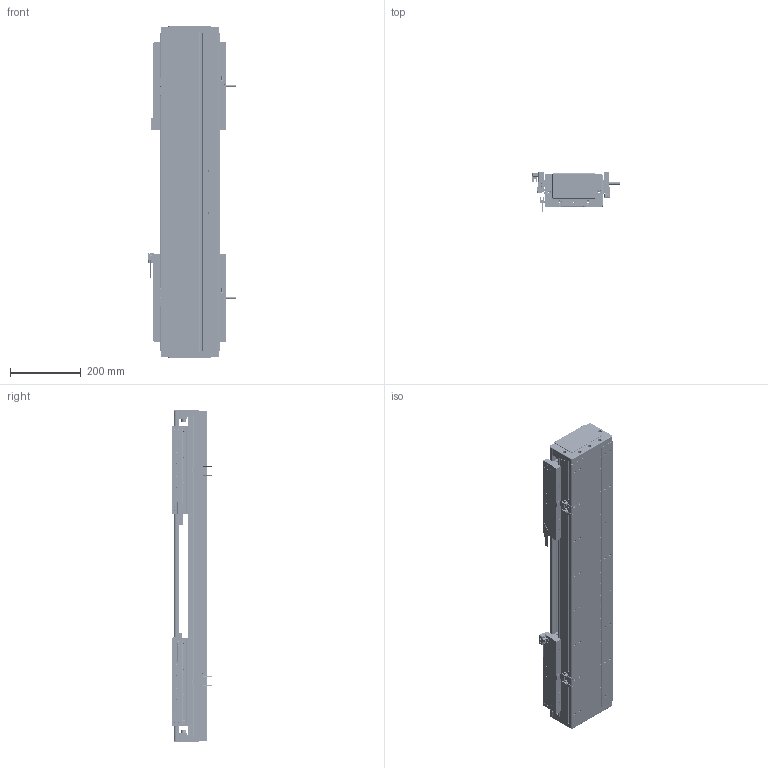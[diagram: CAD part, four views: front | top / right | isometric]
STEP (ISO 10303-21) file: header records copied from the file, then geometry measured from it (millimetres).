
FILE_DESCRIPTION (( 'STEP AP203' ), '1' );
FILE_NAME ('DA-C165-2-C3-T320-C010-0.2 直线电机.STEP', '2023-06-13T09:34:42', ( '微软用户' ), ( '微软中国' ), 'SwSTEP 2.0', 'SolidWorks 2019', '' );
FILE_SCHEMA (( 'CONFIG_CONTROL_DESIGN' ));
Length unit declared in the file: millimetre
Products named in the file (19): 复件 66338-1000-006-00 光电感应块^DA-C165-C3-T-C010-0.2-N 直线电机; IU-CU165-L 菁釱絳寢; 复件 DA165-T-002-00 盖板^DA-C165-C3-T-C010-0.2-N 直线电机_0840-002-00; DA-C165-2-C3-T320-C010-0.2 眻盄萇儂; 复件 DA165-GYP-00 光电感应片^DA-C165-C3-T-C010-0.2-N 直线电机; 复件 DMA-010-0.2 读数头^DA-C165-C3-T-C010-0.2-N 直线电机; 葩璃 CKM03-W075-C1C2-TP-3.0^DA-C165-C3-T-C010-0.2-N 眻盄萇儂; 葩璃 CKM01-W075-TRL^DA-C165-C3-T-C010-0.2-N 眻盄萇儂; 复件 CU165 底座^IU-CU165-L 底座导轨_L900; 复件 DA165-DG-H-N-00 端盖^DA-C165-C3-T-C010-0.2-N 直线电机; 复件 DA95-HXJ-00 缓冲橡胶^DA-C165-C3-T-C010-0.2-N 直线电机; 复件 六角薄螺母 M3^DA-C165-C3-T-C010-0.2-N 直线电机_GB_FASTENER_NUT_STNAB M3-C; 葩璃 DA95-GT-T-00^IU-CU165-L 菁釱絳寢_T; 复件 DKW-HXJ-JY-00 缓冲橡胶^DA-C165-C3-T-C010-0.2-N 直线电机; 复件 XD-U-02L 磁栅尺^DA-C165-C3-T-C010-0.2-N 直线电机_T; 葩璃 PM-T45^DA-C165-C3-T-C010-0.2-N 眻盄萇儂; 葩璃 PM-Y45^DA-C165-C3-T-C010-0.2-N 眻盄萇儂; 复件 DA126-GYP-ZJ-00 中间光电感应片^DA-C165-C3-T-C010-0.2-N 直线电机; 珨极趙賑雄怢啣C3-wf
Assembly tree (40 placements, depth 3):
  DA-C165-2-C3-T320-C010-0.2 眻盄萇儂
    IU-CU165-L 菁釱絳寢
      复件 CU165 底座^IU-CU165-L 底座导轨_L900
      葩璃 DA95-GT-T-00^IU-CU165-L 菁釱絳寢_T  x4
    复件 DA165-DG-H-N-00 端盖^DA-C165-C3-T-C010-0.2-N 直线电机  x2
    复件 DA95-HXJ-00 缓冲橡胶^DA-C165-C3-T-C010-0.2-N 直线电机  x4
    复件 DA165-T-002-00 盖板^DA-C165-C3-T-C010-0.2-N 直线电机_0840-002-00
    复件 XD-U-02L 磁栅尺^DA-C165-C3-T-C010-0.2-N 直线电机_T
    葩璃 PM-T45^DA-C165-C3-T-C010-0.2-N 眻盄萇儂  x4
    葩璃 CKM01-W075-TRL^DA-C165-C3-T-C010-0.2-N 眻盄萇儂
    复件 DMA-010-0.2 读数头^DA-C165-C3-T-C010-0.2-N 直线电机  x2
    复件 DA165-GYP-00 光电感应片^DA-C165-C3-T-C010-0.2-N 直线电机  x2
    复件 66338-1000-006-00 光电感应块^DA-C165-C3-T-C010-0.2-N 直线电机
    葩璃 PM-Y45^DA-C165-C3-T-C010-0.2-N 眻盄萇儂
    复件 DA126-GYP-ZJ-00 中间光电感应片^DA-C165-C3-T-C010-0.2-N 直线电机
    葩璃 CKM03-W075-C1C2-TP-3.0^DA-C165-C3-T-C010-0.2-N 眻盄萇儂  x2
    复件 DKW-HXJ-JY-00 缓冲橡胶^DA-C165-C3-T-C010-0.2-N 直线电机  x2
    复件 六角薄螺母 M3^DA-C165-C3-T-C010-0.2-N 直线电机_GB_FASTENER_NUT_STNAB M3-C  x8
    珨极趙賑雄怢啣C3-wf  x2
Bounding box: 247.2 x 111.45 x 940 mm (x, y, z)
Volume: 9772305.5 mm3; surface area: 2384355.3 mm2
Topology: 117 solids, 217 shells, 5698 faces, 14731 edges, 9014 vertices
Faces by surface type: cylinder 2672, plane 1974, cone 956, torus 88, sphere 8
Entity records: 107140 total; most frequent: CARTESIAN_POINT 24586, DIRECTION 17061, ORIENTED_EDGE 16348, EDGE_CURVE 8174, AXIS2_PLACEMENT_3D 6405, VERTEX_POINT 5268, VECTOR 4251, LINE 4251
